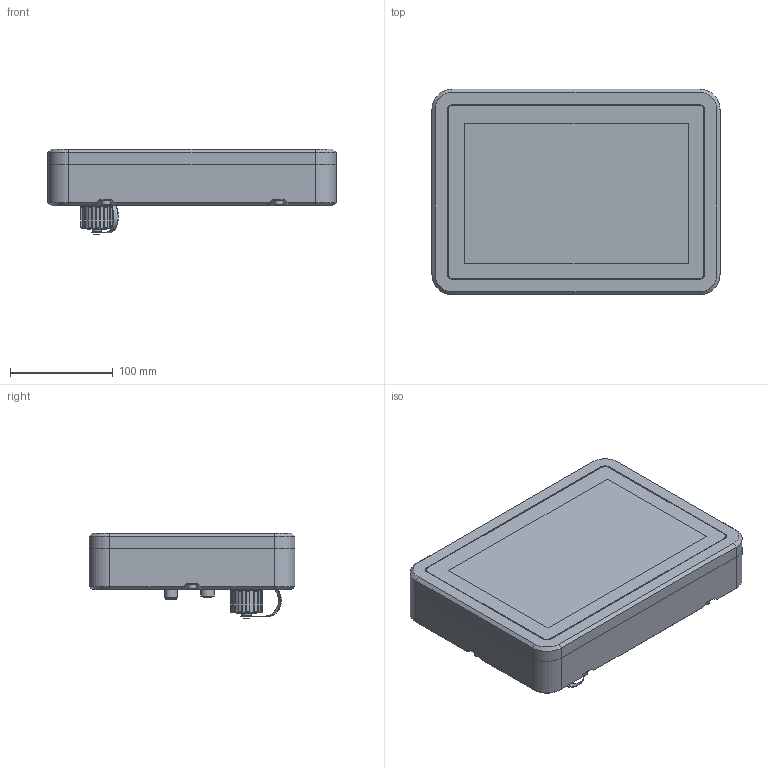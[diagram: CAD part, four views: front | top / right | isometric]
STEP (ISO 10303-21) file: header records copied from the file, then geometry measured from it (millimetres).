
FILE_DESCRIPTION(/* description */ (''),/* implementation_level */ '2;1');
FILE_NAME(/* name */ 'C:\SAPInventorWork\778-61995-00_EXTERN.stp',/* time_stamp */ '2025-03-27T09:37:24+01:00',/* author */ ('Aiple'),/* organization */ (''),/* preprocessor_version */ 'ST-DEVELOPER v18.1',/* originating_system */ 'Autodesk Inventor 2021',/* authorisation */ '');
FILE_SCHEMA (('AUTOMOTIVE_DESIGN { 1 0 10303 214 3 1 1 }'));
Products named in the file (1): 778-61995-00
Bounding box: 280 x 200 x 83.4 mm (x, y, z)
Volume: 3024404.9 mm3; surface area: 187601 mm2
Topology: 2 solids, 42 shells, 4067 faces, 12322 edges, 8291 vertices
Faces by surface type: plane 2561, cylinder 968, bspline 302, cone 139, torus 87, sphere 10
Full cylindrical faces by diameter (mm): 0.85 x1, 1.1 x5, 1.2 x3, 1.5 x4, 1.839 x1, 2.05 x4, 2.55 x3, 4.134 x5, 4.6 x2, 5 x6, 5.1 x6, 5.5 x1, 6.1 x1, 8.5 x6, 9 x1, 10 x1, 10.35 x6, 10.4 x1, 10.75 x1, 12 x2, 15.2 x1, 15.5 x1, 17 x1, 19 x1, 22 x1, 22.5 x1, 23 x2, 24.52 x1, 24.9 x1, 28 x1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
Entity records: 158776 total; most frequent: CARTESIAN_POINT 45962, ORIENTED_EDGE 23157, DIRECTION 21277, EDGE_CURVE 12310, LINE 8563, VECTOR 8563, VERTEX_POINT 8291, AXIS2_PLACEMENT_3D 6357
